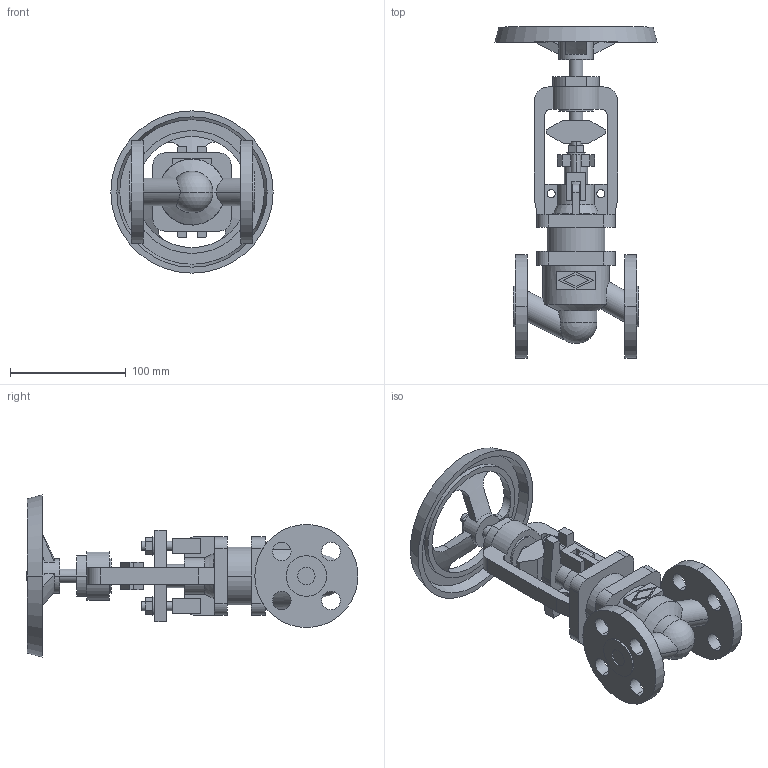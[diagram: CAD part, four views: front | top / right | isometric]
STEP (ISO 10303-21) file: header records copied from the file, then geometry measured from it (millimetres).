
FILE_DESCRIPTION(('OneSpaceDesigner STEP Export'),'2;1');
FILE_NAME('c000004220.stp','2010-04-30T 9:25:35',(''),(''),'OneSpace Designer STEP processor for AP214 (Solid Model)','OneSpace Modeling 15.50B 03-Nov-2007 (C) CoCreate Software GmbH','');
FILE_SCHEMA(('AUTOMOTIVE_DESIGN { 1 0 10303 214 1 1 1 1 }'));
Length unit declared in the file: millimetre
Products named in the file (1): 1
Bounding box: 140 x 286.4 x 140 mm (x, y, z)
Volume: 635984.2 mm3; surface area: 139373.2 mm2
Topology: 1 solids, 1 shells, 282 faces, 735 edges, 480 vertices
Faces by surface type: plane 149, cylinder 107, cone 20, torus 4, sphere 2
Entity records: 10812 total; most frequent: CARTESIAN_POINT 1918, ORIENTED_EDGE 1466, DIRECTION 1238, EDGE_CURVE 733, VERTEX_POINT 480, VECTOR 434, LINE 434, AXIS2_PLACEMENT_3D 402
